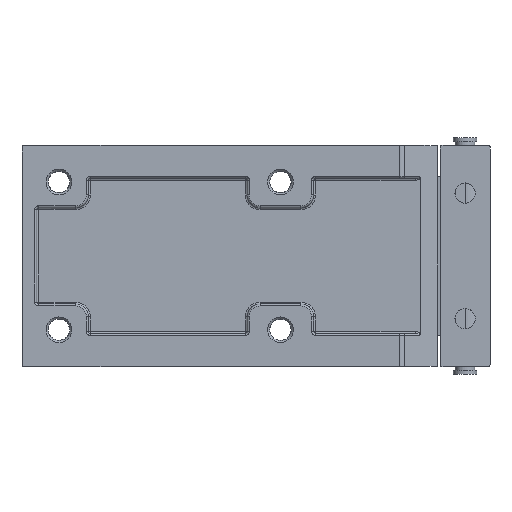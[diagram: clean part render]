
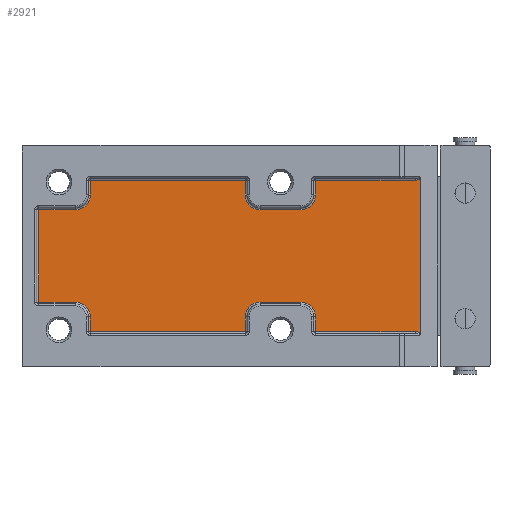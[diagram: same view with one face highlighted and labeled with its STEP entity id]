
A CAD part, top view. The second image highlights one B-rep face of the part: STEP entity #2921.
In plain terms, the highlighted planar face has unit normal (0, 0, 1).
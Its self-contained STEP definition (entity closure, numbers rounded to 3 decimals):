
#497=CARTESIAN_POINT('',(106.505,-20.509,-4.1));
#498=CARTESIAN_POINT('',(106.572,-20.509,-4.1));
#499=CARTESIAN_POINT('',(106.7,-20.514,-4.1));
#500=CARTESIAN_POINT('',(106.877,-20.536,-4.1));
#501=CARTESIAN_POINT('',(107.037,-20.568,-4.1));
#502=CARTESIAN_POINT('',(107.183,-20.608,-4.1));
#503=CARTESIAN_POINT('',(107.315,-20.656,-4.1));
#504=CARTESIAN_POINT('',(107.434,-20.709,-4.1));
#505=CARTESIAN_POINT('',(107.54,-20.766,-4.1));
#506=CARTESIAN_POINT('',(107.634,-20.827,-4.1));
#507=CARTESIAN_POINT('',(107.716,-20.89,-4.1));
#508=CARTESIAN_POINT('',(107.788,-20.955,-4.1));
#509=CARTESIAN_POINT('',(107.831,-21.002,-4.1));
#510=CARTESIAN_POINT('',(107.851,-21.026,-4.1));
#512=DIRECTION('',(1.,0.,0.));
#513=VECTOR('',#512,27.01);
#514=CARTESIAN_POINT('',(79.496,-20.504,-4.1));
#515=LINE('',#514,#513);
#516=DIRECTION('',(0.001,-1.,0.));
#517=VECTOR('',#516,4.004);
#518=CARTESIAN_POINT('',(79.491,-16.5,-4.1));
#519=LINE('',#518,#517);
#520=CARTESIAN_POINT('',(75.5,-16.5,-4.1));
#521=DIRECTION('',(0.,0.,-1.));
#522=DIRECTION('',(0.,1.,0.));
#523=AXIS2_PLACEMENT_3D('',#520,#521,#522);
#525=DIRECTION('',(1.,0.,0.));
#526=VECTOR('',#525,11.);
#527=CARTESIAN_POINT('',(64.5,-12.509,-4.1));
#528=LINE('',#527,#526);
#529=CARTESIAN_POINT('',(64.5,-16.5,-4.1));
#530=DIRECTION('',(0.,0.,-1.));
#531=DIRECTION('',(-1.,0.,0.));
#532=AXIS2_PLACEMENT_3D('',#529,#530,#531);
#534=DIRECTION('',(0.001,1.,0.));
#535=VECTOR('',#534,4.004);
#536=CARTESIAN_POINT('',(60.504,-20.504,-4.1));
#537=LINE('',#536,#535);
#538=DIRECTION('',(1.,0.,0.));
#539=VECTOR('',#538,42.009);
#540=CARTESIAN_POINT('',(18.496,-20.504,-4.1));
#541=LINE('',#540,#539);
#542=DIRECTION('',(0.001,-1.,0.));
#543=VECTOR('',#542,4.004);
#544=CARTESIAN_POINT('',(18.491,-16.5,-4.1));
#545=LINE('',#544,#543);
#546=CARTESIAN_POINT('',(14.5,-16.5,-4.1));
#547=DIRECTION('',(0.,0.,-1.));
#548=DIRECTION('',(0.,1.,0.));
#549=AXIS2_PLACEMENT_3D('',#546,#547,#548);
#551=DIRECTION('',(1.,0.,0.));
#552=VECTOR('',#551,10.004);
#553=CARTESIAN_POINT('',(4.496,-12.504,-4.1));
#554=LINE('',#553,#552);
#555=DIRECTION('',(0.,-1.,0.));
#556=VECTOR('',#555,25.009);
#557=CARTESIAN_POINT('',(4.496,12.504,-4.1));
#558=LINE('',#557,#556);
#559=DIRECTION('',(-1.,0.,0.));
#560=VECTOR('',#559,10.004);
#561=CARTESIAN_POINT('',(14.5,12.509,-4.1));
#562=LINE('',#561,#560);
#563=CARTESIAN_POINT('',(14.5,16.5,-4.1));
#564=DIRECTION('',(0.,0.,-1.));
#565=DIRECTION('',(1.,0.,0.));
#566=AXIS2_PLACEMENT_3D('',#563,#564,#565);
#568=DIRECTION('',(-0.001,-1.,0.));
#569=VECTOR('',#568,4.004);
#570=CARTESIAN_POINT('',(18.496,20.504,-4.1));
#571=LINE('',#570,#569);
#572=DIRECTION('',(-1.,0.,0.));
#573=VECTOR('',#572,42.009);
#574=CARTESIAN_POINT('',(60.504,20.504,-4.1));
#575=LINE('',#574,#573);
#576=DIRECTION('',(-0.001,1.,0.));
#577=VECTOR('',#576,4.004);
#578=CARTESIAN_POINT('',(60.509,16.5,-4.1));
#579=LINE('',#578,#577);
#580=CARTESIAN_POINT('',(64.5,16.5,-4.1));
#581=DIRECTION('',(0.,0.,-1.));
#582=DIRECTION('',(0.,-1.,0.));
#583=AXIS2_PLACEMENT_3D('',#580,#581,#582);
#585=DIRECTION('',(-1.,0.,0.));
#586=VECTOR('',#585,11.);
#587=CARTESIAN_POINT('',(75.5,12.509,-4.1));
#588=LINE('',#587,#586);
#589=CARTESIAN_POINT('',(75.5,16.5,-4.1));
#590=DIRECTION('',(0.,0.,-1.));
#591=DIRECTION('',(1.,0.,0.));
#592=AXIS2_PLACEMENT_3D('',#589,#590,#591);
#594=DIRECTION('',(-0.001,-1.,0.));
#595=VECTOR('',#594,4.004);
#596=CARTESIAN_POINT('',(79.496,20.504,-4.1));
#597=LINE('',#596,#595);
#598=DIRECTION('',(-1.,0.,0.));
#599=VECTOR('',#598,27.01);
#600=CARTESIAN_POINT('',(106.505,20.509,-4.1));
#601=LINE('',#600,#599);
#602=CARTESIAN_POINT('',(107.851,21.026,-4.1));
#603=CARTESIAN_POINT('',(107.8,20.965,-4.1));
#604=CARTESIAN_POINT('',(107.682,20.853,-4.1));
#605=CARTESIAN_POINT('',(107.452,20.71,-4.1));
#606=CARTESIAN_POINT('',(107.18,20.601,-4.1));
#607=CARTESIAN_POINT('',(106.866,20.528,-4.1));
#608=CARTESIAN_POINT('',(106.63,20.509,-4.1));
#609=CARTESIAN_POINT('',(106.505,20.509,-4.1));
#611=DIRECTION('',(0.,-1.,0.));
#612=VECTOR('',#611,42.051);
#613=CARTESIAN_POINT('',(107.851,21.026,-4.1));
#614=LINE('',#613,#612);
#2156=VERTEX_POINT('',#497);
#2157=VERTEX_POINT('',#510);
#2160=CARTESIAN_POINT('',(79.496,-20.504,
-4.1));
#2161=VERTEX_POINT('',#2160);
#2166=CARTESIAN_POINT('',(79.491,-16.5,-4.1));
#2167=VERTEX_POINT('',#2166);
#2170=CARTESIAN_POINT('',(75.5,-12.509,-4.1));
#2171=VERTEX_POINT('',#2170);
#2174=CARTESIAN_POINT('',(64.5,-12.509,-4.1));
#2175=VERTEX_POINT('',#2174);
#2178=CARTESIAN_POINT('',(60.509,-16.5,-4.1));
#2179=VERTEX_POINT('',#2178);
#2182=CARTESIAN_POINT('',(60.504,-20.504,
-4.1));
#2183=VERTEX_POINT('',#2182);
#2188=CARTESIAN_POINT('',(18.496,-20.504,
-4.1));
#2189=VERTEX_POINT('',#2188);
#2194=CARTESIAN_POINT('',(18.491,-16.5,-4.1));
#2195=VERTEX_POINT('',#2194);
#2198=CARTESIAN_POINT('',(14.5,-12.509,-4.1));
#2199=VERTEX_POINT('',#2198);
#2202=CARTESIAN_POINT('',(4.496,-12.504,
-4.1));
#2203=VERTEX_POINT('',#2202);
#2208=CARTESIAN_POINT('',(4.496,12.504,-4.1));
#2209=VERTEX_POINT('',#2208);
#2214=CARTESIAN_POINT('',(14.5,12.509,-4.1));
#2215=VERTEX_POINT('',#2214);
#2218=CARTESIAN_POINT('',(18.491,16.5,-4.1));
#2219=VERTEX_POINT('',#2218);
#2222=CARTESIAN_POINT('',(18.496,20.504,-4.1));
#2223=VERTEX_POINT('',#2222);
#2228=CARTESIAN_POINT('',(60.504,20.504,-4.1));
#2229=VERTEX_POINT('',#2228);
#2234=CARTESIAN_POINT('',(60.509,16.5,-4.1));
#2235=VERTEX_POINT('',#2234);
#2238=CARTESIAN_POINT('',(64.5,12.509,-4.1));
#2239=VERTEX_POINT('',#2238);
#2242=CARTESIAN_POINT('',(75.5,12.509,-4.1));
#2243=VERTEX_POINT('',#2242);
#2246=CARTESIAN_POINT('',(79.491,16.5,-4.1));
#2247=VERTEX_POINT('',#2246);
#2250=CARTESIAN_POINT('',(79.496,20.504,-4.1));
#2251=VERTEX_POINT('',#2250);
#2256=CARTESIAN_POINT('',(106.505,20.509,-4.1));
#2257=VERTEX_POINT('',#2256);
#2258=VERTEX_POINT('',#602);
#2870=CARTESIAN_POINT('',(0.,-30.,-4.1));
#2871=DIRECTION('',(0.,0.,1.));
#2872=DIRECTION('',(1.,0.,0.));
#2873=AXIS2_PLACEMENT_3D('',#2870,#2871,#2872);
#2874=PLANE('',#2873);
#2875=ORIENTED_EDGE('',*,*,#2531,.F.);
#2876=ORIENTED_EDGE('',*,*,#2546,.F.);
#2878=ORIENTED_EDGE('',*,*,#2877,.F.);
#2880=ORIENTED_EDGE('',*,*,#2879,.F.);
#2882=ORIENTED_EDGE('',*,*,#2881,.F.);
#2884=ORIENTED_EDGE('',*,*,#2883,.F.);
#2886=ORIENTED_EDGE('',*,*,#2885,.F.);
#2888=ORIENTED_EDGE('',*,*,#2887,.F.);
#2890=ORIENTED_EDGE('',*,*,#2889,.F.);
#2892=ORIENTED_EDGE('',*,*,#2891,.F.);
#2894=ORIENTED_EDGE('',*,*,#2893,.F.);
#2896=ORIENTED_EDGE('',*,*,#2895,.F.);
#2898=ORIENTED_EDGE('',*,*,#2897,.F.);
#2900=ORIENTED_EDGE('',*,*,#2899,.F.);
#2902=ORIENTED_EDGE('',*,*,#2901,.F.);
#2904=ORIENTED_EDGE('',*,*,#2903,.F.);
#2906=ORIENTED_EDGE('',*,*,#2905,.F.);
#2908=ORIENTED_EDGE('',*,*,#2907,.F.);
#2910=ORIENTED_EDGE('',*,*,#2909,.F.);
#2912=ORIENTED_EDGE('',*,*,#2911,.F.);
#2914=ORIENTED_EDGE('',*,*,#2913,.F.);
#2916=ORIENTED_EDGE('',*,*,#2915,.F.);
#2917=ORIENTED_EDGE('',*,*,#2861,.F.);
#2918=ORIENTED_EDGE('',*,*,#2404,.T.);
#2919=EDGE_LOOP('',(#2875,#2876,#2878,#2880,#2882,#2884,#2886,#2888,#2890,#2892,
#2894,#2896,#2898,#2900,#2902,#2904,#2906,#2908,#2910,#2912,#2914,#2916,#2917,
#2918));
#2920=FACE_OUTER_BOUND('',#2919,.F.);
#2921=ADVANCED_FACE('',(#2920),#2874,.T.);
#511=B_SPLINE_CURVE_WITH_KNOTS('',3,(#497,#498,#499,#500,#501,#502,#503,#504,
#505,#506,#507,#508,#509,#510),.UNSPECIFIED.,.F.,.F.,(4,1,1,1,1,1,1,1,1,1,1,4),(
0.,0.091,0.182,0.273,0.364,
0.455,0.545,0.636,0.727,
0.818,0.909,1.),.UNSPECIFIED.);
#524=CIRCLE('',#523,3.991);
#533=CIRCLE('',#532,3.991);
#550=CIRCLE('',#549,3.991);
#567=CIRCLE('',#566,3.991);
#584=CIRCLE('',#583,3.991);
#593=CIRCLE('',#592,3.991);
#610=B_SPLINE_CURVE_WITH_KNOTS('',3,(#602,#603,#604,#605,#606,#607,#608,#609),
.UNSPECIFIED.,.F.,.F.,(4,1,1,1,1,4),(0.,0.2,0.4,0.6,0.8,1.),
.UNSPECIFIED.);
#2404=EDGE_CURVE('',#2258,#2157,#614,.T.);
#2531=EDGE_CURVE('',#2156,#2157,#511,.T.);
#2546=EDGE_CURVE('',#2161,#2156,#515,.T.);
#2861=EDGE_CURVE('',#2258,#2257,#610,.T.);
#2877=EDGE_CURVE('',#2167,#2161,#519,.T.);
#2879=EDGE_CURVE('',#2171,#2167,#524,.T.);
#2881=EDGE_CURVE('',#2175,#2171,#528,.T.);
#2883=EDGE_CURVE('',#2179,#2175,#533,.T.);
#2885=EDGE_CURVE('',#2183,#2179,#537,.T.);
#2887=EDGE_CURVE('',#2189,#2183,#541,.T.);
#2889=EDGE_CURVE('',#2195,#2189,#545,.T.);
#2891=EDGE_CURVE('',#2199,#2195,#550,.T.);
#2893=EDGE_CURVE('',#2203,#2199,#554,.T.);
#2895=EDGE_CURVE('',#2209,#2203,#558,.T.);
#2897=EDGE_CURVE('',#2215,#2209,#562,.T.);
#2899=EDGE_CURVE('',#2219,#2215,#567,.T.);
#2901=EDGE_CURVE('',#2223,#2219,#571,.T.);
#2903=EDGE_CURVE('',#2229,#2223,#575,.T.);
#2905=EDGE_CURVE('',#2235,#2229,#579,.T.);
#2907=EDGE_CURVE('',#2239,#2235,#584,.T.);
#2909=EDGE_CURVE('',#2243,#2239,#588,.T.);
#2911=EDGE_CURVE('',#2247,#2243,#593,.T.);
#2913=EDGE_CURVE('',#2251,#2247,#597,.T.);
#2915=EDGE_CURVE('',#2257,#2251,#601,.T.);
